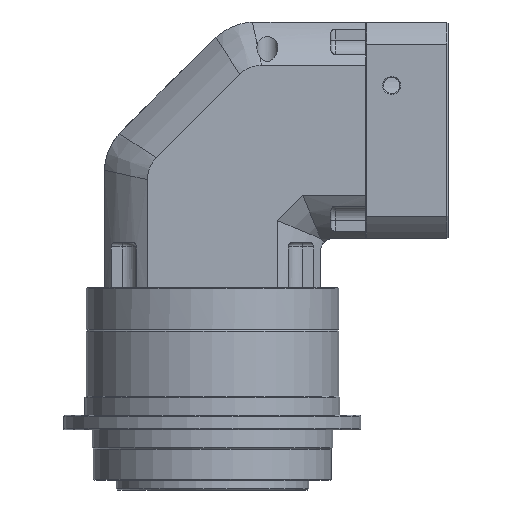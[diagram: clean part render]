
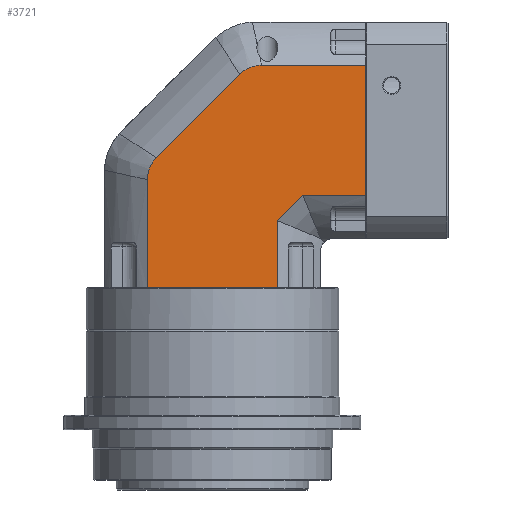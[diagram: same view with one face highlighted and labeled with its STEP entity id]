
A CAD part, left-side view. The second image highlights one B-rep face of the part: STEP entity #3721.
In plain terms, the highlighted planar face has unit normal (-1, 0, 0).
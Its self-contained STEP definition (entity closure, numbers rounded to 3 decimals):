
#2098=CARTESIAN_POINT('',(-90.,-53.106,168.));
#2099=VERTEX_POINT('',#2098);
#2115=CARTESIAN_POINT('',(-90.,-54.083,168.));
#2116=VERTEX_POINT('',#2115);
#2124=CARTESIAN_POINT('',(-90.,-53.106,168.));
#2125=DIRECTION('',(0.0,-1.0,0.0));
#2126=VECTOR('',#2125,0.977);
#2127=LINE('',#2124,#2126);
#2128=EDGE_CURVE('',#2099,#2116,#2127,.T.);
#2138=CARTESIAN_POINT('',(-90.,53.106,168.));
#2139=VERTEX_POINT('',#2138);
#2149=CARTESIAN_POINT('',(-90.0,54.083,168.));
#2150=VERTEX_POINT('',#2149);
#2151=CARTESIAN_POINT('',(-90.,54.083,168.));
#2152=DIRECTION('',(0.0,-1.0,0.0));
#2153=VECTOR('',#2152,0.977);
#2154=LINE('',#2151,#2153);
#2155=EDGE_CURVE('',#2150,#2139,#2154,.T.);
#3146=CARTESIAN_POINT('',(-90.,-22.776,345.54));
#3147=VERTEX_POINT('',#3146);
#3157=CARTESIAN_POINT('',(-90.,-40.986,353.083));
#3158=VERTEX_POINT('',#3157);
#3159=CARTESIAN_POINT('',(-90.,-22.776,345.54));
#3160=CARTESIAN_POINT('',(-90.,-25.178,347.942));
#3161=CARTESIAN_POINT('',(-90.,-27.979,349.851));
#3162=CARTESIAN_POINT('',(-90.,-34.252,352.451));
#3163=CARTESIAN_POINT('',(-90.,-37.586,353.083));
#3164=CARTESIAN_POINT('',(-90.,-40.986,353.083));
#3165=B_SPLINE_CURVE_WITH_KNOTS('',3,(#3159,#3160,#3161,#3162,#3163,#3164),.UNSPECIFIED.,.F.,.U.,(4,2,4),(0.0,1.019,2.039),.UNSPECIFIED.);
#3166=EDGE_CURVE('',#3147,#3158,#3165,.T.);
#3434=CARTESIAN_POINT('',(-90.,46.54,276.224));
#3435=VERTEX_POINT('',#3434);
#3445=CARTESIAN_POINT('',(-90.,-22.776,345.54));
#3446=DIRECTION('',(0.,0.707,-0.707));
#3447=VECTOR('',#3446,98.027);
#3448=LINE('',#3445,#3447);
#3449=EDGE_CURVE('',#3147,#3435,#3448,.T.);
#3622=CARTESIAN_POINT('',(-90.,49.961,168.));
#3623=VERTEX_POINT('',#3622);
#3624=CARTESIAN_POINT('',(-90.,48.539,168.));
#3625=VERTEX_POINT('',#3624);
#3633=CARTESIAN_POINT('',(-90.,49.961,168.));
#3634=DIRECTION('',(0.0,-1.0,0.0));
#3635=VECTOR('',#3634,1.422);
#3636=LINE('',#3633,#3635);
#3637=EDGE_CURVE('',#3623,#3625,#3636,.T.);
#3642=CARTESIAN_POINT('',(-90.0,54.083,389.));
#3643=DIRECTION('',(-1.0,0.0,0.0));
#3644=DIRECTION('',(0.0,0.0,1.0));
#3645=AXIS2_PLACEMENT_3D('',#3642,#3643,#3644);
#3646=PLANE('',#3645);
#3647=CARTESIAN_POINT('',(-90.,-127.5,244.917));
#3648=VERTEX_POINT('',#3647);
#3649=CARTESIAN_POINT('',(-90.,-127.5,353.083));
#3650=VERTEX_POINT('',#3649);
#3651=CARTESIAN_POINT('',(-90.,-127.5,244.917));
#3652=DIRECTION('',(0.0,0.0,1.0));
#3653=VECTOR('',#3652,108.167);
#3654=LINE('',#3651,#3653);
#3655=EDGE_CURVE('',#3648,#3650,#3654,.T.);
#3656=ORIENTED_EDGE('',*,*,#3655,.T.);
#3657=CARTESIAN_POINT('',(-90.,-40.986,353.083));
#3658=DIRECTION('',(0.0,-1.0,0.0));
#3659=VECTOR('',#3658,86.514);
#3660=LINE('',#3657,#3659);
#3661=EDGE_CURVE('',#3158,#3650,#3660,.T.);
#3662=ORIENTED_EDGE('',*,*,#3661,.F.);
#3663=ORIENTED_EDGE('',*,*,#3166,.F.);
#3664=ORIENTED_EDGE('',*,*,#3449,.T.);
#3665=CARTESIAN_POINT('',(-90.,54.083,258.014));
#3666=VERTEX_POINT('',#3665);
#3667=CARTESIAN_POINT('',(-90.0,54.083,258.014));
#3668=CARTESIAN_POINT('',(-90.0,54.083,261.411));
#3669=CARTESIAN_POINT('',(-90.,53.453,264.741));
#3670=CARTESIAN_POINT('',(-90.,50.855,271.016));
#3671=CARTESIAN_POINT('',(-90.0,48.945,273.82));
#3672=CARTESIAN_POINT('',(-90.0,46.54,276.224));
#3673=B_SPLINE_CURVE_WITH_KNOTS('',3,(#3667,#3668,#3669,#3670,#3671,#3672),.UNSPECIFIED.,.F.,.U.,(4,2,4),(0.0,1.019,2.039),.UNSPECIFIED.);
#3674=EDGE_CURVE('',#3666,#3435,#3673,.T.);
#3675=ORIENTED_EDGE('',*,*,#3674,.F.);
#3676=CARTESIAN_POINT('',(-90.0,54.083,258.014));
#3677=DIRECTION('',(0.0,0.0,-1.0));
#3678=VECTOR('',#3677,90.014);
#3679=LINE('',#3676,#3678);
#3680=EDGE_CURVE('',#3666,#2150,#3679,.T.);
#3681=ORIENTED_EDGE('',*,*,#3680,.T.);
#3682=ORIENTED_EDGE('',*,*,#2155,.T.);
#3683=CARTESIAN_POINT('',(-90.0,49.961,168.0));
#3684=DIRECTION('',(0.0,1.0,0.0));
#3685=VECTOR('',#3684,3.145);
#3686=LINE('',#3683,#3685);
#3687=EDGE_CURVE('',#3623,#2139,#3686,.T.);
#3688=ORIENTED_EDGE('',*,*,#3687,.F.);
#3689=ORIENTED_EDGE('',*,*,#3637,.T.);
#3690=CARTESIAN_POINT('',(-90.,-53.106,168.0));
#3691=DIRECTION('',(0.0,1.0,0.0));
#3692=VECTOR('',#3691,101.645);
#3693=LINE('',#3690,#3692);
#3694=EDGE_CURVE('',#2099,#3625,#3693,.T.);
#3695=ORIENTED_EDGE('',*,*,#3694,.F.);
#3696=ORIENTED_EDGE('',*,*,#2128,.T.);
#3697=CARTESIAN_POINT('',(-90.,-54.083,223.877));
#3698=VERTEX_POINT('',#3697);
#3699=CARTESIAN_POINT('',(-90.,-54.083,223.877));
#3700=DIRECTION('',(0.0,0.0,-1.0));
#3701=VECTOR('',#3700,55.877);
#3702=LINE('',#3699,#3701);
#3703=EDGE_CURVE('',#3698,#2116,#3702,.T.);
#3704=ORIENTED_EDGE('',*,*,#3703,.F.);
#3705=CARTESIAN_POINT('',(-90.,-75.123,244.917));
#3706=VERTEX_POINT('',#3705);
#3707=CARTESIAN_POINT('',(-90.,-75.123,244.917));
#3708=DIRECTION('',(0.0,0.707,-0.707));
#3709=VECTOR('',#3708,29.754);
#3710=LINE('',#3707,#3709);
#3711=EDGE_CURVE('',#3706,#3698,#3710,.T.);
#3712=ORIENTED_EDGE('',*,*,#3711,.F.);
#3713=CARTESIAN_POINT('',(-90.,-75.123,244.917));
#3714=DIRECTION('',(0.0,-1.0,0.0));
#3715=VECTOR('',#3714,52.377);
#3716=LINE('',#3713,#3715);
#3717=EDGE_CURVE('',#3706,#3648,#3716,.T.);
#3718=ORIENTED_EDGE('',*,*,#3717,.T.);
#3719=EDGE_LOOP('',(#3656,#3662,#3663,#3664,#3675,#3681,#3682,#3688,#3689,#3695,#3696,#3704,#3712,#3718));
#3720=FACE_OUTER_BOUND('',#3719,.T.);
#3721=ADVANCED_FACE('',(#3720),#3646,.T.);
